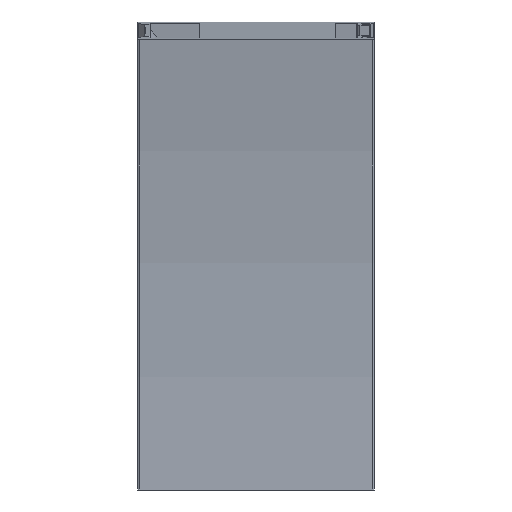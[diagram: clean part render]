
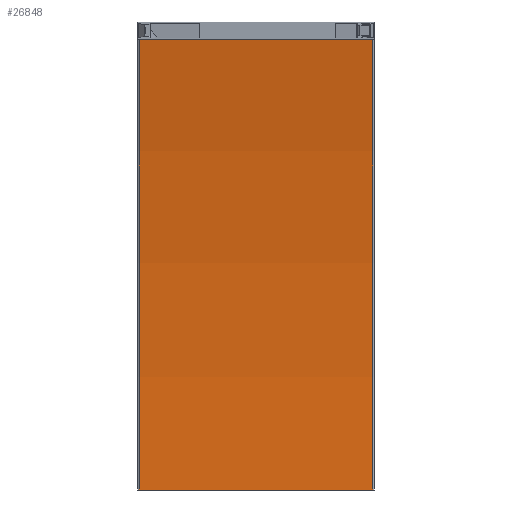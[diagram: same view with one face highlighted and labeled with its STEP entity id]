
A CAD part, left-side view. The second image highlights one B-rep face of the part: STEP entity #26848.
In plain terms, the highlighted cylindrical face has radius 872.2 mm (diameter 1744.4 mm), a partial arc.
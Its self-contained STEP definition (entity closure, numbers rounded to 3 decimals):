
#4432=CYLINDRICAL_SURFACE('',#28508,872.2);
#4619=LINE('',#36733,#5733);
#4620=LINE('',#36735,#5734);
#5733=VECTOR('',#30928,10.);
#5734=VECTOR('',#30929,10.);
#7251=FACE_OUTER_BOUND('',#8800,.T.);
#8800=EDGE_LOOP('',(#18510,#18511,#18512,#18513));
#10492=CIRCLE('',#28507,872.2);
#10493=CIRCLE('',#28509,872.2);
#11608=VERTEX_POINT('',#36726);
#11609=VERTEX_POINT('',#36728);
#11610=VERTEX_POINT('',#36732);
#11611=VERTEX_POINT('',#36734);
#14322=EDGE_CURVE('',#11608,#11609,#10492,.T.);
#14323=EDGE_CURVE('',#11610,#11608,#4619,.T.);
#14324=EDGE_CURVE('',#11611,#11609,#4620,.T.);
#14325=EDGE_CURVE('',#11610,#11611,#10493,.T.);
#18510=ORIENTED_EDGE('',*,*,#14323,.T.);
#18511=ORIENTED_EDGE('',*,*,#14322,.T.);
#18512=ORIENTED_EDGE('',*,*,#14324,.F.);
#18513=ORIENTED_EDGE('',*,*,#14325,.F.);
#26848=ADVANCED_FACE('',(#7251),#4432,.F.);
#28507=AXIS2_PLACEMENT_3D('',#36730,#30924,#30925);
#28508=AXIS2_PLACEMENT_3D('',#36731,#30926,#30927);
#28509=AXIS2_PLACEMENT_3D('',#36736,#30930,#30931);
#30924=DIRECTION('center_axis',(0.,-1.,0.));
#30925=DIRECTION('ref_axis',(1.,0.,0.));
#30926=DIRECTION('center_axis',(0.,-1.,0.));
#30927=DIRECTION('ref_axis',(1.,0.,0.));
#30928=DIRECTION('',(0.,-1.,0.));
#30929=DIRECTION('',(0.,-1.,0.));
#30930=DIRECTION('center_axis',(0.,-1.,0.));
#30931=DIRECTION('ref_axis',(1.,0.,0.));
#36726=CARTESIAN_POINT('',(-18.595,-41.736,0.));
#36728=CARTESIAN_POINT('',(-37.654,-41.736,181.341));
#36730=CARTESIAN_POINT('Origin',(-890.795,-41.736,0.));
#36731=CARTESIAN_POINT('Origin',(-890.795,5.314,0.));
#36732=CARTESIAN_POINT('',(-18.595,52.364,0.));
#36733=CARTESIAN_POINT('',(-18.595,52.364,0.));
#36734=CARTESIAN_POINT('',(-37.654,52.364,181.341));
#36735=CARTESIAN_POINT('',(-37.654,52.364,181.341));
#36736=CARTESIAN_POINT('Origin',(-890.795,52.364,0.));
